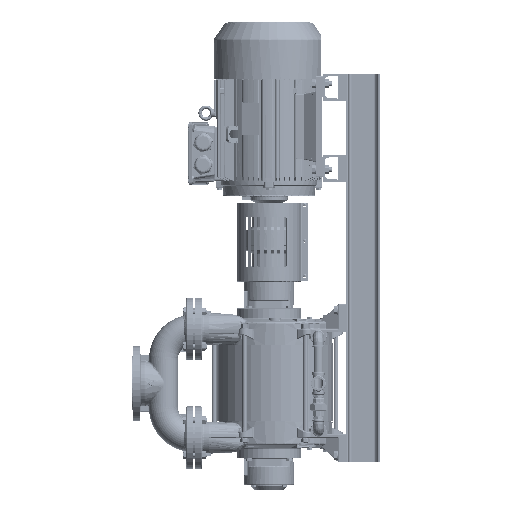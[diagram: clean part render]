
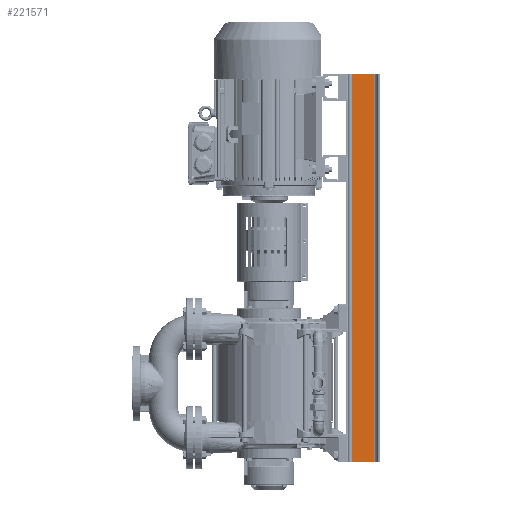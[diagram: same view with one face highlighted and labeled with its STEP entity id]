
A CAD part, left-side view. The second image highlights one B-rep face of the part: STEP entity #221571.
In plain terms, the highlighted planar face has unit normal (-1, 0, 0).
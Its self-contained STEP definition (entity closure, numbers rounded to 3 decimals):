
#401 = ORIENTED_EDGE ( 'NONE', *, *, #279619, .F. ) ;
#40214 = LINE ( 'NONE', #434174, #421251 ) ;
#54837 = VERTEX_POINT ( 'NONE', #98478 ) ;
#63948 = VERTEX_POINT ( 'NONE', #95799 ) ;
#93432 = DIRECTION ( 'NONE',  ( 0., -1., 0. ) ) ;
#95799 = CARTESIAN_POINT ( 'NONE',  ( 334.746, 1097.327, -950.239 ) ) ;
#98478 = CARTESIAN_POINT ( 'NONE',  ( 334.746, 1161.593, 199.761 ) ) ;
#122278 = LINE ( 'NONE', #307464, #266039 ) ;
#145537 = CARTESIAN_POINT ( 'NONE',  ( 334.746, 1161.593, -950.239 ) ) ;
#193985 = EDGE_CURVE ( 'NONE', #54837, #479804, #400659, .T. ) ;
#220580 = DIRECTION ( 'NONE',  ( 0., 0., -1. ) ) ;
#221571 = ADVANCED_FACE ( 'NONE', ( #259119 ), #560346, .F. ) ;
#235287 = LINE ( 'NONE', #275833, #309001 ) ;
#240045 = ORIENTED_EDGE ( 'NONE', *, *, #341096, .T. ) ;
#253382 = CARTESIAN_POINT ( 'NONE',  ( 334.746, 1097.327, 199.761 ) ) ;
#254651 = DIRECTION ( 'NONE',  ( 0., -1., 0. ) ) ;
#257574 = VERTEX_POINT ( 'NONE', #370476 ) ;
#259119 = FACE_OUTER_BOUND ( 'NONE', #424425, .T. ) ;
#266039 = VECTOR ( 'NONE', #220580, 1000. ) ;
#275833 = CARTESIAN_POINT ( 'NONE',  ( 334.746, 1097.327, -950.239 ) ) ;
#279619 = EDGE_CURVE ( 'NONE', #257574, #63948, #122278, .T. ) ;
#290579 = ORIENTED_EDGE ( 'NONE', *, *, #193985, .T. ) ;
#294121 = EDGE_CURVE ( 'NONE', #54837, #257574, #40214, .T. ) ;
#307464 = CARTESIAN_POINT ( 'NONE',  ( 334.746, 1097.327, 199.761 ) ) ;
#309001 = VECTOR ( 'NONE', #93432, 1000. ) ;
#316567 = CARTESIAN_POINT ( 'NONE',  ( 334.746, 1161.593, 199.761 ) ) ;
#341096 = EDGE_CURVE ( 'NONE', #479804, #63948, #235287, .T. ) ;
#343113 = DIRECTION ( 'NONE',  ( 0., 1., 0. ) ) ;
#365792 = DIRECTION ( 'NONE',  ( 0., 0., -1. ) ) ;
#370476 = CARTESIAN_POINT ( 'NONE',  ( 334.746, 1097.327, 199.761 ) ) ;
#389470 = DIRECTION ( 'NONE',  ( 1., 0., 0. ) ) ;
#397563 = VECTOR ( 'NONE', #365792, 1000. ) ;
#400659 = LINE ( 'NONE', #316567, #397563 ) ;
#421251 = VECTOR ( 'NONE', #254651, 1000. ) ;
#424425 = EDGE_LOOP ( 'NONE', ( #240045, #401, #469029, #290579 ) ) ;
#434174 = CARTESIAN_POINT ( 'NONE',  ( 334.746, 1097.327, 199.761 ) ) ;
#469029 = ORIENTED_EDGE ( 'NONE', *, *, #294121, .F. ) ;
#479804 = VERTEX_POINT ( 'NONE', #145537 ) ;
#488177 = AXIS2_PLACEMENT_3D ( 'NONE', #253382, #389470, #343113 ) ;
#560346 = PLANE ( 'NONE',  #488177 ) ;
